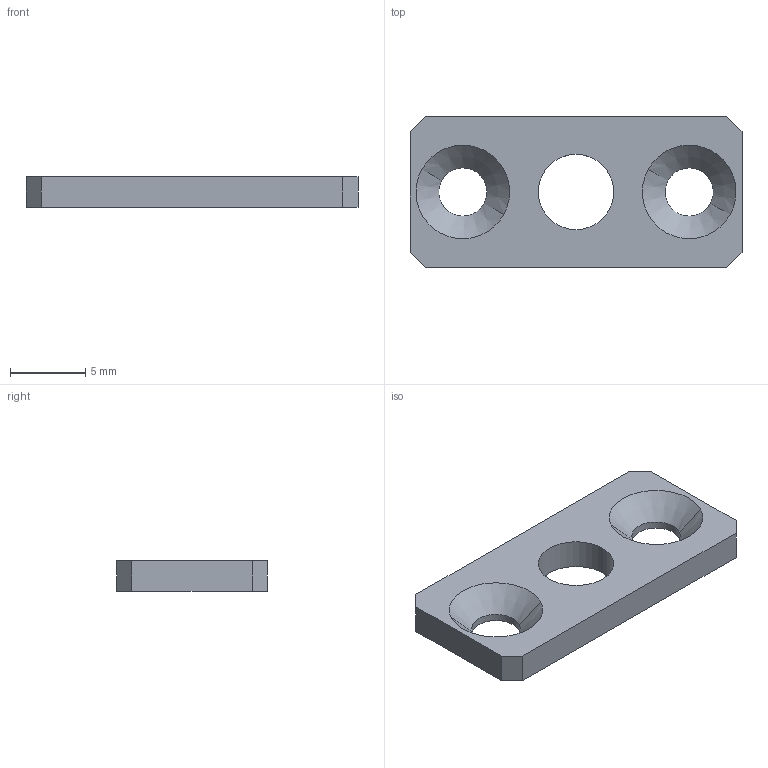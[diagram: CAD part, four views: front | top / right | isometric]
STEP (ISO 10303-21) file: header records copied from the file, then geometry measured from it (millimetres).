
FILE_DESCRIPTION(('CATIA V5 STEP Exchange'),'2;1');
FILE_NAME('G:\够快云库\系统集成开发部\1.部门成员\孙国\工装\气密检测工装\STP\轻卡悬浮阀\GZ-QKQM04_V1 密封盖板.stp','2021-08-26T02:15:26+00:00',('none'),('none'),'CATIA Version 5 Release 20 GA (IN-10)','CATIA V5 STEP AP214','none');
FILE_SCHEMA(('AUTOMOTIVE_DESIGN { 1 0 10303 214 1 1 1 1 }'));
Length unit declared in the file: millimetre
Products named in the file (1): 压盖
Bounding box: 22 x 10 x 2 mm (x, y, z)
Volume: 334.9 mm3; surface area: 547.7 mm2
Topology: 1 solids, 1 shells, 20 faces, 54 edges, 36 vertices
Faces by surface type: plane 10, cylinder 6, cone 4
Entity records: 627 total; most frequent: ORIENTED_EDGE 108, CARTESIAN_POINT 106, DIRECTION 84, EDGE_CURVE 54, AXIS2_PLACEMENT_3D 36, VERTEX_POINT 36, VECTOR 34, LINE 34
